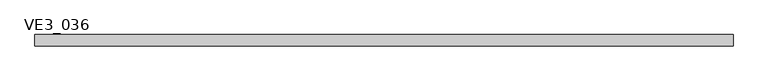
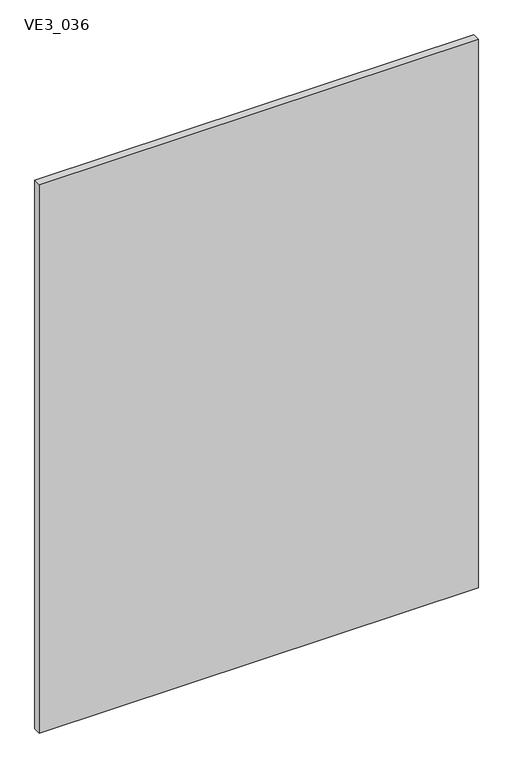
"""IFC4 building model written with IfcOpenShell, lengths in millimetres: plate geometry, TRP_CP_ARC_PF_RE_SE : VE3_036."""

from ifc_helpers import new_model, si_unit, frame, origin, place, context, project, spatial, polyline, outline, extrude, source, transform, mapped, element, save


def ve3_036_db4ad411(model_context):
    return source(origin(), model_context, "Body", "SweptSolid", [
        extrude(outline(polyline([(1100.0, 18.0), (1100.0, -18.0), (-1100.0, -18.0), (-1100.0, 18.0), (1100.0, 18.0)])), frame((0.0, 0.0, -3.1739529), z_axis=(0.0, 0.0, 1.0), x_axis=(1.0, 0.0, 0.0)), (0.0, 0.0, 1.0), 2903.1739529),
    ])


if __name__ == "__main__":
    model = new_model("IFC4")
    model_context = context("Model", 3, world=origin())
    ifc_project = project(units=[si_unit("LENGTHUNIT", "METRE", prefix="MILLI")], contexts=[model_context])
    site = spatial("IfcSite", under=ifc_project)
    building = spatial("IfcBuilding", under=site)
    placement = place(None, origin())
    ve3_036_shape = ve3_036_db4ad411(model_context)
    element("IfcPlate", 1, ObjectType="TRP_CP_ARC_PF_RE_SE : VE3_036", at=placement, inside=building, context=model_context, shape_type="MappedRepresentation", body=[
        mapped(ve3_036_shape, transform((0.0, 0.0, 0.0), x_axis=(1.0, 0.0, 0.0), y_axis=(0.0, 1.0, 0.0), z_axis=(0.0, 0.0, 1.0))),
    ])
    save(model, "model.ifc")
